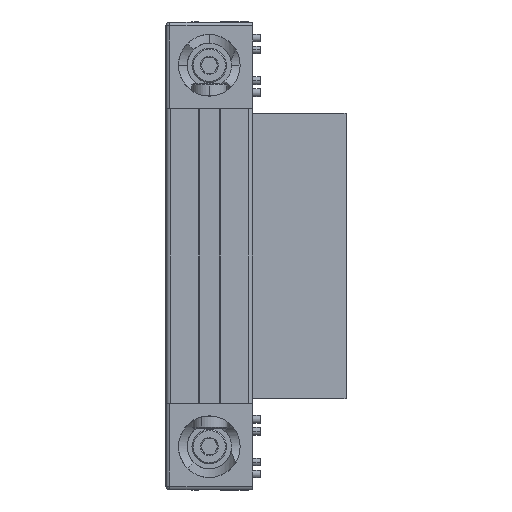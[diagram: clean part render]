
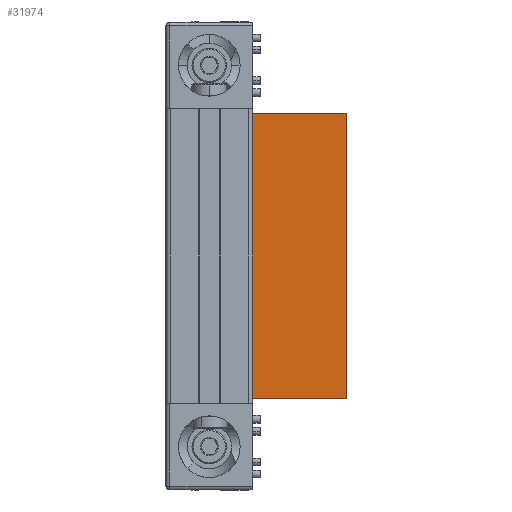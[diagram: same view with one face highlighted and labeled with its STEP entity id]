
A CAD part, left-side view. The second image highlights one B-rep face of the part: STEP entity #31974.
In plain terms, the highlighted planar face has unit normal (-1, 0, 0) as drawn and (0, 0, 1) by its records, which use the part's own axes.
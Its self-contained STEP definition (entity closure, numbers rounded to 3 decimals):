
#4 = EDGE_LOOP ( 'NONE', ( #22494, #43880, #8246, #48648 ) ) ;
#1812 = VECTOR ( 'NONE', #23629, 1000. ) ;
#5169 = LINE ( 'NONE', #39127, #44869 ) ;
#8246 = ORIENTED_EDGE ( 'NONE', *, *, #47350, .T. ) ;
#10453 = VERTEX_POINT ( 'NONE', #12417 ) ;
#12038 = LINE ( 'NONE', #27518, #1812 ) ;
#12417 = CARTESIAN_POINT ( 'NONE',  ( 74., 50.8, 69.85 ) ) ;
#12827 = VERTEX_POINT ( 'NONE', #33409 ) ;
#14412 = LINE ( 'NONE', #41537, #43917 ) ;
#15874 = FACE_OUTER_BOUND ( 'NONE', #4, .T. ) ;
#16588 = AXIS2_PLACEMENT_3D ( 'NONE', #45870, #49715, #26694 ) ;
#22046 = EDGE_CURVE ( 'NONE', #12827, #45121, #43331, .T. ) ;
#22494 = ORIENTED_EDGE ( 'NONE', *, *, #42546, .F. ) ;
#23629 = DIRECTION ( 'NONE',  ( 1., 0., 0. ) ) ;
#23813 = DIRECTION ( 'NONE',  ( 1., 0., 0. ) ) ;
#26694 = DIRECTION ( 'NONE',  ( 1., 0., 0. ) ) ;
#26999 = CARTESIAN_POINT ( 'NONE',  ( -74., 0., 69.85 ) ) ;
#27518 = CARTESIAN_POINT ( 'NONE',  ( -74., 0., 69.85 ) ) ;
#27680 = EDGE_CURVE ( 'NONE', #30804, #10453, #14412, .T. ) ;
#30804 = VERTEX_POINT ( 'NONE', #42798 ) ;
#31913 = VECTOR ( 'NONE', #42301, 1000. ) ;
#31974 = ADVANCED_FACE ( 'NONE', ( #15874 ), #41994, .T. ) ;
#33409 = CARTESIAN_POINT ( 'NONE',  ( -74., 0., 69.85 ) ) ;
#39127 = CARTESIAN_POINT ( 'NONE',  ( -74., 50.8, 69.85 ) ) ;
#41537 = CARTESIAN_POINT ( 'NONE',  ( 74., 0., 69.85 ) ) ;
#41994 = PLANE ( 'NONE',  #16588 ) ;
#42301 = DIRECTION ( 'NONE',  ( 0., 1., 0. ) ) ;
#42546 = EDGE_CURVE ( 'NONE', #45121, #10453, #5169, .T. ) ;
#42798 = CARTESIAN_POINT ( 'NONE',  ( 74., 0., 69.85 ) ) ;
#43331 = LINE ( 'NONE', #26999, #31913 ) ;
#43880 = ORIENTED_EDGE ( 'NONE', *, *, #22046, .F. ) ;
#43917 = VECTOR ( 'NONE', #45407, 1000. ) ;
#44869 = VECTOR ( 'NONE', #23813, 1000. ) ;
#45121 = VERTEX_POINT ( 'NONE', #47150 ) ;
#45407 = DIRECTION ( 'NONE',  ( 0., 1., 0. ) ) ;
#45870 = CARTESIAN_POINT ( 'NONE',  ( -74., 0., 69.85 ) ) ;
#47150 = CARTESIAN_POINT ( 'NONE',  ( -74., 50.8, 69.85 ) ) ;
#47350 = EDGE_CURVE ( 'NONE', #12827, #30804, #12038, .T. ) ;
#48648 = ORIENTED_EDGE ( 'NONE', *, *, #27680, .T. ) ;
#49715 = DIRECTION ( 'NONE',  ( 0., 0., 1. ) ) ;
